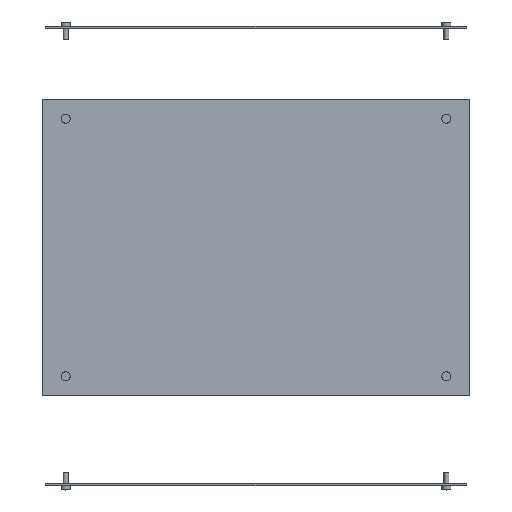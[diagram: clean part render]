
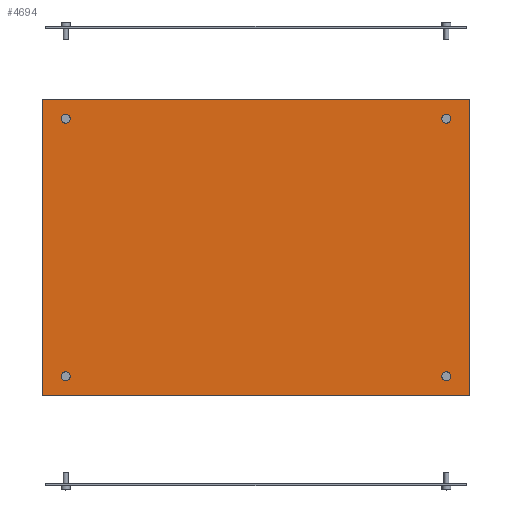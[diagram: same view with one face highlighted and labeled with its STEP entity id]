
A CAD part, top view. The second image highlights one B-rep face of the part: STEP entity #4694.
In plain terms, the highlighted planar face has unit normal (0, 0, 1).
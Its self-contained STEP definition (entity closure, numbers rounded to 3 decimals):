
#4505 = VERTEX_POINT('',#4506);
#4506 = CARTESIAN_POINT('',(-130.,-90.,155.));
#4513 = PLANE('',#4514);
#4514 = AXIS2_PLACEMENT_3D('',#4515,#4516,#4517);
#4515 = CARTESIAN_POINT('',(-130.,-90.,153.5));
#4516 = DIRECTION('',(1.,0.,0.));
#4517 = DIRECTION('',(0.,0.,1.));
#4525 = PLANE('',#4526);
#4526 = AXIS2_PLACEMENT_3D('',#4527,#4528,#4529);
#4527 = CARTESIAN_POINT('',(-130.,-90.,153.5));
#4528 = DIRECTION('',(0.,1.,0.));
#4529 = DIRECTION('',(0.,0.,1.));
#4566 = VERTEX_POINT('',#4567);
#4567 = CARTESIAN_POINT('',(-130.,90.,155.));
#4581 = PLANE('',#4582);
#4582 = AXIS2_PLACEMENT_3D('',#4583,#4584,#4585);
#4583 = CARTESIAN_POINT('',(-130.,90.,153.5));
#4584 = DIRECTION('',(0.,1.,0.));
#4585 = DIRECTION('',(0.,0.,1.));
#4593 = EDGE_CURVE('',#4505,#4566,#4594,.T.);
#4594 = SURFACE_CURVE('',#4595,(#4599,#4606),.PCURVE_S1.);
#4595 = LINE('',#4596,#4597);
#4596 = CARTESIAN_POINT('',(-130.,-90.,155.));
#4597 = VECTOR('',#4598,1.);
#4598 = DIRECTION('',(0.,1.,0.));
#4599 = PCURVE('',#4513,#4600);
#4600 = DEFINITIONAL_REPRESENTATION('',(#4601),#4605);
#4601 = LINE('',#4602,#4603);
#4602 = CARTESIAN_POINT('',(1.5,0.));
#4603 = VECTOR('',#4604,1.);
#4604 = DIRECTION('',(0.,-1.));
#4605 = ( GEOMETRIC_REPRESENTATION_CONTEXT(2) 
PARAMETRIC_REPRESENTATION_CONTEXT() REPRESENTATION_CONTEXT('2D SPACE',''
  ) );
#4606 = PCURVE('',#4607,#4612);
#4607 = PLANE('',#4608);
#4608 = AXIS2_PLACEMENT_3D('',#4609,#4610,#4611);
#4609 = CARTESIAN_POINT('',(-130.,-90.,155.));
#4610 = DIRECTION('',(0.,0.,1.));
#4611 = DIRECTION('',(1.,0.,0.));
#4612 = DEFINITIONAL_REPRESENTATION('',(#4613),#4617);
#4613 = LINE('',#4614,#4615);
#4614 = CARTESIAN_POINT('',(0.,0.));
#4615 = VECTOR('',#4616,1.);
#4616 = DIRECTION('',(0.,1.));
#4617 = ( GEOMETRIC_REPRESENTATION_CONTEXT(2) 
PARAMETRIC_REPRESENTATION_CONTEXT() REPRESENTATION_CONTEXT('2D SPACE',''
  ) );
#4646 = EDGE_CURVE('',#4505,#4647,#4649,.T.);
#4647 = VERTEX_POINT('',#4648);
#4648 = CARTESIAN_POINT('',(130.,-90.,155.));
#4649 = SURFACE_CURVE('',#4650,(#4654,#4661),.PCURVE_S1.);
#4650 = LINE('',#4651,#4652);
#4651 = CARTESIAN_POINT('',(-130.,-90.,155.));
#4652 = VECTOR('',#4653,1.);
#4653 = DIRECTION('',(1.,0.,0.));
#4654 = PCURVE('',#4525,#4655);
#4655 = DEFINITIONAL_REPRESENTATION('',(#4656),#4660);
#4656 = LINE('',#4657,#4658);
#4657 = CARTESIAN_POINT('',(1.5,0.));
#4658 = VECTOR('',#4659,1.);
#4659 = DIRECTION('',(0.,1.));
#4660 = ( GEOMETRIC_REPRESENTATION_CONTEXT(2) 
PARAMETRIC_REPRESENTATION_CONTEXT() REPRESENTATION_CONTEXT('2D SPACE',''
  ) );
#4661 = PCURVE('',#4607,#4662);
#4662 = DEFINITIONAL_REPRESENTATION('',(#4663),#4667);
#4663 = LINE('',#4664,#4665);
#4664 = CARTESIAN_POINT('',(0.,0.));
#4665 = VECTOR('',#4666,1.);
#4666 = DIRECTION('',(1.,0.));
#4667 = ( GEOMETRIC_REPRESENTATION_CONTEXT(2) 
PARAMETRIC_REPRESENTATION_CONTEXT() REPRESENTATION_CONTEXT('2D SPACE',''
  ) );
#4683 = PLANE('',#4684);
#4684 = AXIS2_PLACEMENT_3D('',#4685,#4686,#4687);
#4685 = CARTESIAN_POINT('',(130.,-90.,153.5));
#4686 = DIRECTION('',(1.,0.,0.));
#4687 = DIRECTION('',(0.,0.,1.));
#4694 = ADVANCED_FACE('',(#4695,#4743,#4774,#4805,#4836),#4607,.T.);
#4695 = FACE_BOUND('',#4696,.T.);
#4696 = EDGE_LOOP('',(#4697,#4698,#4699,#4722));
#4697 = ORIENTED_EDGE('',*,*,#4593,.F.);
#4698 = ORIENTED_EDGE('',*,*,#4646,.T.);
#4699 = ORIENTED_EDGE('',*,*,#4700,.T.);
#4700 = EDGE_CURVE('',#4647,#4701,#4703,.T.);
#4701 = VERTEX_POINT('',#4702);
#4702 = CARTESIAN_POINT('',(130.,90.,155.));
#4703 = SURFACE_CURVE('',#4704,(#4708,#4715),.PCURVE_S1.);
#4704 = LINE('',#4705,#4706);
#4705 = CARTESIAN_POINT('',(130.,-90.,155.));
#4706 = VECTOR('',#4707,1.);
#4707 = DIRECTION('',(0.,1.,0.));
#4708 = PCURVE('',#4607,#4709);
#4709 = DEFINITIONAL_REPRESENTATION('',(#4710),#4714);
#4710 = LINE('',#4711,#4712);
#4711 = CARTESIAN_POINT('',(260.,0.));
#4712 = VECTOR('',#4713,1.);
#4713 = DIRECTION('',(0.,1.));
#4714 = ( GEOMETRIC_REPRESENTATION_CONTEXT(2) 
PARAMETRIC_REPRESENTATION_CONTEXT() REPRESENTATION_CONTEXT('2D SPACE',''
  ) );
#4715 = PCURVE('',#4683,#4716);
#4716 = DEFINITIONAL_REPRESENTATION('',(#4717),#4721);
#4717 = LINE('',#4718,#4719);
#4718 = CARTESIAN_POINT('',(1.5,0.));
#4719 = VECTOR('',#4720,1.);
#4720 = DIRECTION('',(0.,-1.));
#4721 = ( GEOMETRIC_REPRESENTATION_CONTEXT(2) 
PARAMETRIC_REPRESENTATION_CONTEXT() REPRESENTATION_CONTEXT('2D SPACE',''
  ) );
#4722 = ORIENTED_EDGE('',*,*,#4723,.F.);
#4723 = EDGE_CURVE('',#4566,#4701,#4724,.T.);
#4724 = SURFACE_CURVE('',#4725,(#4729,#4736),.PCURVE_S1.);
#4725 = LINE('',#4726,#4727);
#4726 = CARTESIAN_POINT('',(-130.,90.,155.));
#4727 = VECTOR('',#4728,1.);
#4728 = DIRECTION('',(1.,0.,0.));
#4729 = PCURVE('',#4607,#4730);
#4730 = DEFINITIONAL_REPRESENTATION('',(#4731),#4735);
#4731 = LINE('',#4732,#4733);
#4732 = CARTESIAN_POINT('',(0.,180.));
#4733 = VECTOR('',#4734,1.);
#4734 = DIRECTION('',(1.,0.));
#4735 = ( GEOMETRIC_REPRESENTATION_CONTEXT(2) 
PARAMETRIC_REPRESENTATION_CONTEXT() REPRESENTATION_CONTEXT('2D SPACE',''
  ) );
#4736 = PCURVE('',#4581,#4737);
#4737 = DEFINITIONAL_REPRESENTATION('',(#4738),#4742);
#4738 = LINE('',#4739,#4740);
#4739 = CARTESIAN_POINT('',(1.5,0.));
#4740 = VECTOR('',#4741,1.);
#4741 = DIRECTION('',(0.,1.));
#4742 = ( GEOMETRIC_REPRESENTATION_CONTEXT(2) 
PARAMETRIC_REPRESENTATION_CONTEXT() REPRESENTATION_CONTEXT('2D SPACE',''
  ) );
#4743 = FACE_BOUND('',#4744,.T.);
#4744 = EDGE_LOOP('',(#4745));
#4745 = ORIENTED_EDGE('',*,*,#4746,.F.);
#4746 = EDGE_CURVE('',#4747,#4747,#4749,.T.);
#4747 = VERTEX_POINT('',#4748);
#4748 = CARTESIAN_POINT('',(-114.3,-78.5,155.));
#4749 = SURFACE_CURVE('',#4750,(#4755,#4762),.PCURVE_S1.);
#4750 = CIRCLE('',#4751,1.7);
#4751 = AXIS2_PLACEMENT_3D('',#4752,#4753,#4754);
#4752 = CARTESIAN_POINT('',(-116.,-78.5,155.));
#4753 = DIRECTION('',(0.,0.,1.));
#4754 = DIRECTION('',(1.,0.,-0.));
#4755 = PCURVE('',#4607,#4756);
#4756 = DEFINITIONAL_REPRESENTATION('',(#4757),#4761);
#4757 = CIRCLE('',#4758,1.7);
#4758 = AXIS2_PLACEMENT_2D('',#4759,#4760);
#4759 = CARTESIAN_POINT('',(14.,11.5));
#4760 = DIRECTION('',(1.,0.));
#4761 = ( GEOMETRIC_REPRESENTATION_CONTEXT(2) 
PARAMETRIC_REPRESENTATION_CONTEXT() REPRESENTATION_CONTEXT('2D SPACE',''
  ) );
#4762 = PCURVE('',#4763,#4768);
#4763 = CYLINDRICAL_SURFACE('',#4764,1.7);
#4764 = AXIS2_PLACEMENT_3D('',#4765,#4766,#4767);
#4765 = CARTESIAN_POINT('',(-116.,-78.5,152.5));
#4766 = DIRECTION('',(0.,0.,1.));
#4767 = DIRECTION('',(1.,0.,-0.));
#4768 = DEFINITIONAL_REPRESENTATION('',(#4769),#4773);
#4769 = LINE('',#4770,#4771);
#4770 = CARTESIAN_POINT('',(0.,2.5));
#4771 = VECTOR('',#4772,1.);
#4772 = DIRECTION('',(1.,0.));
#4773 = ( GEOMETRIC_REPRESENTATION_CONTEXT(2) 
PARAMETRIC_REPRESENTATION_CONTEXT() REPRESENTATION_CONTEXT('2D SPACE',''
  ) );
#4774 = FACE_BOUND('',#4775,.T.);
#4775 = EDGE_LOOP('',(#4776));
#4776 = ORIENTED_EDGE('',*,*,#4777,.F.);
#4777 = EDGE_CURVE('',#4778,#4778,#4780,.T.);
#4778 = VERTEX_POINT('',#4779);
#4779 = CARTESIAN_POINT('',(117.7,-78.5,155.));
#4780 = SURFACE_CURVE('',#4781,(#4786,#4793),.PCURVE_S1.);
#4781 = CIRCLE('',#4782,1.7);
#4782 = AXIS2_PLACEMENT_3D('',#4783,#4784,#4785);
#4783 = CARTESIAN_POINT('',(116.,-78.5,155.));
#4784 = DIRECTION('',(0.,0.,1.));
#4785 = DIRECTION('',(1.,0.,-0.));
#4786 = PCURVE('',#4607,#4787);
#4787 = DEFINITIONAL_REPRESENTATION('',(#4788),#4792);
#4788 = CIRCLE('',#4789,1.7);
#4789 = AXIS2_PLACEMENT_2D('',#4790,#4791);
#4790 = CARTESIAN_POINT('',(246.,11.5));
#4791 = DIRECTION('',(1.,0.));
#4792 = ( GEOMETRIC_REPRESENTATION_CONTEXT(2) 
PARAMETRIC_REPRESENTATION_CONTEXT() REPRESENTATION_CONTEXT('2D SPACE',''
  ) );
#4793 = PCURVE('',#4794,#4799);
#4794 = CYLINDRICAL_SURFACE('',#4795,1.7);
#4795 = AXIS2_PLACEMENT_3D('',#4796,#4797,#4798);
#4796 = CARTESIAN_POINT('',(116.,-78.5,152.5));
#4797 = DIRECTION('',(0.,0.,1.));
#4798 = DIRECTION('',(1.,0.,-0.));
#4799 = DEFINITIONAL_REPRESENTATION('',(#4800),#4804);
#4800 = LINE('',#4801,#4802);
#4801 = CARTESIAN_POINT('',(0.,2.5));
#4802 = VECTOR('',#4803,1.);
#4803 = DIRECTION('',(1.,0.));
#4804 = ( GEOMETRIC_REPRESENTATION_CONTEXT(2) 
PARAMETRIC_REPRESENTATION_CONTEXT() REPRESENTATION_CONTEXT('2D SPACE',''
  ) );
#4805 = FACE_BOUND('',#4806,.T.);
#4806 = EDGE_LOOP('',(#4807));
#4807 = ORIENTED_EDGE('',*,*,#4808,.F.);
#4808 = EDGE_CURVE('',#4809,#4809,#4811,.T.);
#4809 = VERTEX_POINT('',#4810);
#4810 = CARTESIAN_POINT('',(-114.3,78.5,155.));
#4811 = SURFACE_CURVE('',#4812,(#4817,#4824),.PCURVE_S1.);
#4812 = CIRCLE('',#4813,1.7);
#4813 = AXIS2_PLACEMENT_3D('',#4814,#4815,#4816);
#4814 = CARTESIAN_POINT('',(-116.,78.5,155.));
#4815 = DIRECTION('',(0.,0.,1.));
#4816 = DIRECTION('',(1.,0.,-0.));
#4817 = PCURVE('',#4607,#4818);
#4818 = DEFINITIONAL_REPRESENTATION('',(#4819),#4823);
#4819 = CIRCLE('',#4820,1.7);
#4820 = AXIS2_PLACEMENT_2D('',#4821,#4822);
#4821 = CARTESIAN_POINT('',(14.,168.5));
#4822 = DIRECTION('',(1.,0.));
#4823 = ( GEOMETRIC_REPRESENTATION_CONTEXT(2) 
PARAMETRIC_REPRESENTATION_CONTEXT() REPRESENTATION_CONTEXT('2D SPACE',''
  ) );
#4824 = PCURVE('',#4825,#4830);
#4825 = CYLINDRICAL_SURFACE('',#4826,1.7);
#4826 = AXIS2_PLACEMENT_3D('',#4827,#4828,#4829);
#4827 = CARTESIAN_POINT('',(-116.,78.5,152.5));
#4828 = DIRECTION('',(0.,0.,1.));
#4829 = DIRECTION('',(1.,0.,-0.));
#4830 = DEFINITIONAL_REPRESENTATION('',(#4831),#4835);
#4831 = LINE('',#4832,#4833);
#4832 = CARTESIAN_POINT('',(0.,2.5));
#4833 = VECTOR('',#4834,1.);
#4834 = DIRECTION('',(1.,0.));
#4835 = ( GEOMETRIC_REPRESENTATION_CONTEXT(2) 
PARAMETRIC_REPRESENTATION_CONTEXT() REPRESENTATION_CONTEXT('2D SPACE',''
  ) );
#4836 = FACE_BOUND('',#4837,.T.);
#4837 = EDGE_LOOP('',(#4838));
#4838 = ORIENTED_EDGE('',*,*,#4839,.F.);
#4839 = EDGE_CURVE('',#4840,#4840,#4842,.T.);
#4840 = VERTEX_POINT('',#4841);
#4841 = CARTESIAN_POINT('',(117.7,78.5,155.));
#4842 = SURFACE_CURVE('',#4843,(#4848,#4855),.PCURVE_S1.);
#4843 = CIRCLE('',#4844,1.7);
#4844 = AXIS2_PLACEMENT_3D('',#4845,#4846,#4847);
#4845 = CARTESIAN_POINT('',(116.,78.5,155.));
#4846 = DIRECTION('',(0.,0.,1.));
#4847 = DIRECTION('',(1.,0.,-0.));
#4848 = PCURVE('',#4607,#4849);
#4849 = DEFINITIONAL_REPRESENTATION('',(#4850),#4854);
#4850 = CIRCLE('',#4851,1.7);
#4851 = AXIS2_PLACEMENT_2D('',#4852,#4853);
#4852 = CARTESIAN_POINT('',(246.,168.5));
#4853 = DIRECTION('',(1.,0.));
#4854 = ( GEOMETRIC_REPRESENTATION_CONTEXT(2) 
PARAMETRIC_REPRESENTATION_CONTEXT() REPRESENTATION_CONTEXT('2D SPACE',''
  ) );
#4855 = PCURVE('',#4856,#4861);
#4856 = CYLINDRICAL_SURFACE('',#4857,1.7);
#4857 = AXIS2_PLACEMENT_3D('',#4858,#4859,#4860);
#4858 = CARTESIAN_POINT('',(116.,78.5,152.5));
#4859 = DIRECTION('',(0.,0.,1.));
#4860 = DIRECTION('',(1.,0.,-0.));
#4861 = DEFINITIONAL_REPRESENTATION('',(#4862),#4866);
#4862 = LINE('',#4863,#4864);
#4863 = CARTESIAN_POINT('',(0.,2.5));
#4864 = VECTOR('',#4865,1.);
#4865 = DIRECTION('',(1.,0.));
#4866 = ( GEOMETRIC_REPRESENTATION_CONTEXT(2) 
PARAMETRIC_REPRESENTATION_CONTEXT() REPRESENTATION_CONTEXT('2D SPACE',''
  ) );
